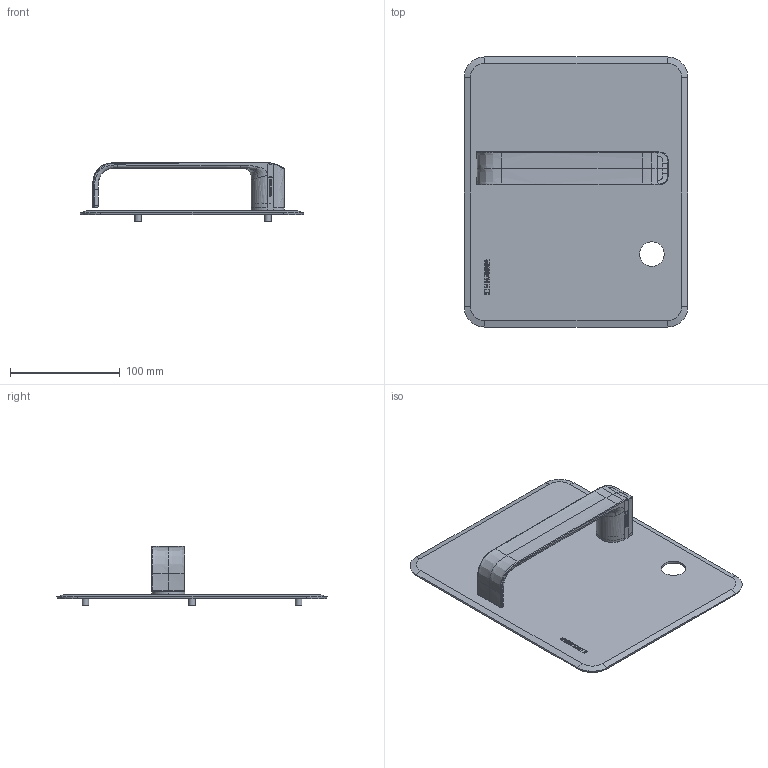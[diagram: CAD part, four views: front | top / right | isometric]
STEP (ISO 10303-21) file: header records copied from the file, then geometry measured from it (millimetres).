
FILE_DESCRIPTION(/* description */ (''),/* implementation_level */ '2;1');
FILE_NAME(/* name */ 'C:\ADSK_DMS_WS\Designs\Vorschläge\Loc Schalen\Muschel Serie 1\S1.0.D4Links\Heusser-Muschel S1.0.D4.278L.stp',/* time_stamp */ '2020-10-10T09:44:31+02:00',/* author */ ('gm'),/* organization */ (''),/* preprocessor_version */ 'ST-DEVELOPER v16.5',/* originating_system */ 'Autodesk Inventor 2017',/* authorisation */ '');
FILE_SCHEMA (('AUTOMOTIVE_DESIGN { 1 0 10303 214 3 1 1 }'));
Length unit declared in the file: millimetre
Products named in the file (1): S1.0.D1.0L
Bounding box: 203.62 x 245.62 x 54.54 mm (x, y, z)
Volume: 151683.7 mm3; surface area: 122201.5 mm2
Topology: 1 solids, 2 shells, 570 faces, 1501 edges, 980 vertices
Faces by surface type: plane 289, bspline 217, cylinder 34, cone 30
Full cylindrical faces by diameter (mm): 1.7 x2, 3.242 x3, 4.917 x1, 6 x3, 8 x3, 14.2 x1, 16 x3, 18 x1, 19 x1, 19.1 x1, 22.3 x1, 23 x1, 23.2 x1, 24 x1, 25 x1, 26 x1, 28 x1, 28.6 x1
Entity records: 24754 total; most frequent: CARTESIAN_POINT 11565, ORIENTED_EDGE 2886, DIRECTION 1958, EDGE_CURVE 1443, VERTEX_POINT 967, LINE 854, VECTOR 854, EDGE_LOOP 672
